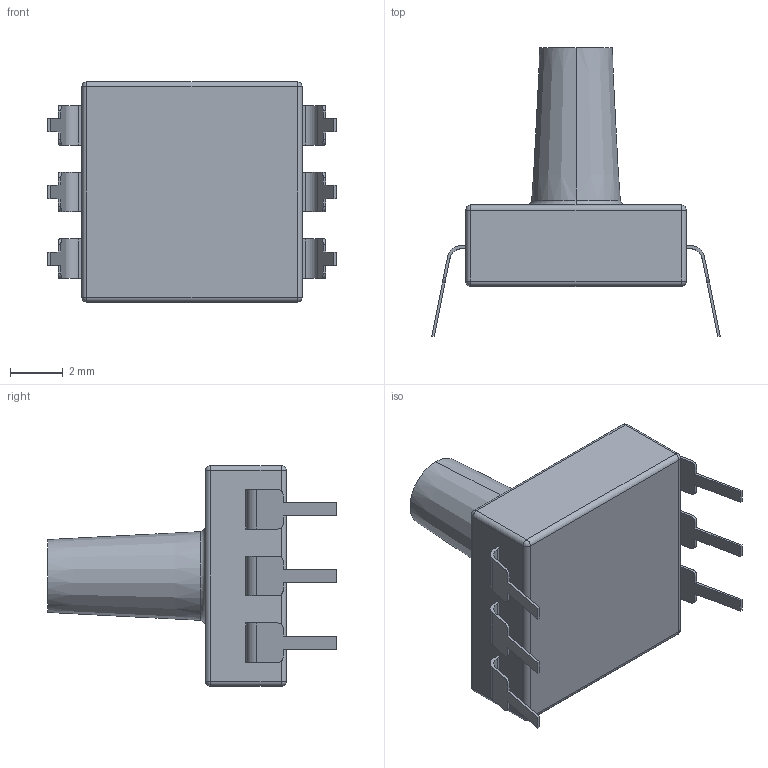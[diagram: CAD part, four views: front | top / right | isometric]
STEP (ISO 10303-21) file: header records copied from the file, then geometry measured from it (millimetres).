
FILE_DESCRIPTION (( 'STEP AP214' ), '1' );
FILE_NAME ('MPS20N0040-D.STEP', '2020-05-01T20:55:12', ( '' ), ( '' ), 'SwSTEP 2.0', 'SolidWorks 2011', '' );
FILE_SCHEMA (( 'AUTOMOTIVE_DESIGN' ));
Length unit declared in the file: millimetre
Products named in the file (1): MPS20N0040-D
Bounding box: 11 x 11 x 8.4 mm (x, y, z)
Volume: 239.3 mm3; surface area: 398.6 mm2
Topology: 1 solids, 1 shells, 164 faces, 410 edges, 252 vertices
Faces by surface type: plane 81, cylinder 40, cone 16, torus 15, sphere 10, bspline 2
Entity records: 5839 total; most frequent: CARTESIAN_POINT 957, DIRECTION 813, ORIENTED_EDGE 800, EDGE_CURVE 400, AXIS2_PLACEMENT_3D 282, VERTEX_POINT 252, LINE 249, VECTOR 249
